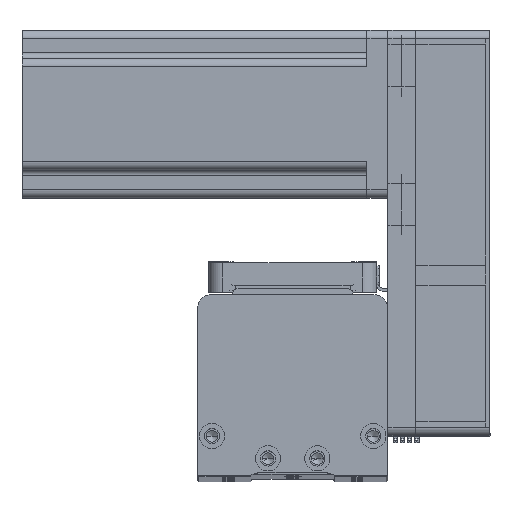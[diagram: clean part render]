
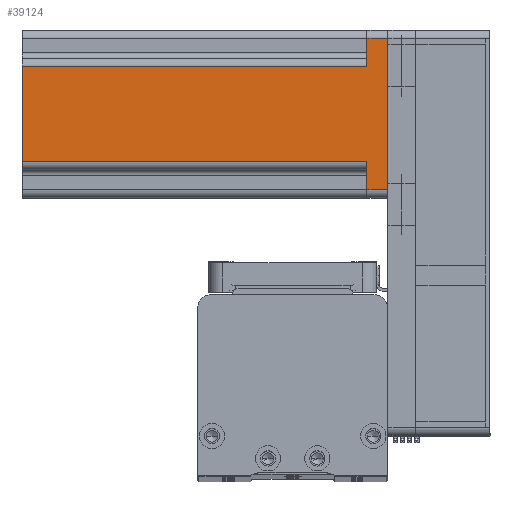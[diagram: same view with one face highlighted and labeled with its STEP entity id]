
A CAD part, top view. The second image highlights one B-rep face of the part: STEP entity #39124.
In plain terms, the highlighted planar face has unit normal (0, 0, 1) as drawn and (0, -1, 0) by its records, which use the part's own axes.
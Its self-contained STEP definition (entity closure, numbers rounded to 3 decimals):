
#817 = VECTOR ( 'NONE', #45818, 1000. ) ;
#1178 = CARTESIAN_POINT ( 'NONE',  ( -27., -30., 130.7 ) ) ;
#1821 = PLANE ( 'NONE',  #39786 ) ;
#2224 = ORIENTED_EDGE ( 'NONE', *, *, #9020, .T. ) ;
#3173 = CARTESIAN_POINT ( 'NONE',  ( 20., -30., 7.5 ) ) ;
#5502 = CARTESIAN_POINT ( 'NONE',  ( -17., -30., 7.5 ) ) ;
#5950 = VERTEX_POINT ( 'NONE', #10632 ) ;
#6006 = VERTEX_POINT ( 'NONE', #22350 ) ;
#6258 = EDGE_CURVE ( 'NONE', #38527, #5950, #39411, .T. ) ;
#6953 = DIRECTION ( 'NONE',  ( -1., 0., 0. ) ) ;
#7013 = VECTOR ( 'NONE', #33353, 1000. ) ;
#7710 = VERTEX_POINT ( 'NONE', #5502 ) ;
#7947 = EDGE_CURVE ( 'NONE', #5950, #6006, #10967, .T. ) ;
#8239 = VECTOR ( 'NONE', #8971, 1000. ) ;
#8971 = DIRECTION ( 'NONE',  ( 0., 0., 1. ) ) ;
#9020 = EDGE_CURVE ( 'NONE', #32761, #9303, #13770, .T. ) ;
#9303 = VERTEX_POINT ( 'NONE', #15302 ) ;
#9565 = DIRECTION ( 'NONE',  ( 0., 1., 0. ) ) ;
#9826 = DIRECTION ( 'NONE',  ( 0., 0., 1. ) ) ;
#10632 = CARTESIAN_POINT ( 'NONE',  ( 27., -30., 7.5 ) ) ;
#10967 = LINE ( 'NONE', #3173, #31049 ) ;
#12582 = VECTOR ( 'NONE', #23766, 1000. ) ;
#13298 = ORIENTED_EDGE ( 'NONE', *, *, #7947, .T. ) ;
#13770 = LINE ( 'NONE', #1178, #12582 ) ;
#15302 = CARTESIAN_POINT ( 'NONE',  ( -27., -30., 0. ) ) ;
#15621 = LINE ( 'NONE', #26321, #34398 ) ;
#15838 = ORIENTED_EDGE ( 'NONE', *, *, #6258, .T. ) ;
#17491 = LINE ( 'NONE', #43998, #36294 ) ;
#17910 = LINE ( 'NONE', #32407, #30300 ) ;
#19027 = DIRECTION ( 'NONE',  ( 1., 0., 0. ) ) ;
#19988 = EDGE_CURVE ( 'NONE', #32761, #7710, #40828, .T. ) ;
#20034 = CARTESIAN_POINT ( 'NONE',  ( 27., -30., 0. ) ) ;
#20078 = EDGE_LOOP ( 'NONE', ( #44228, #24782, #31805, #2224, #20236, #15838, #13298, #34136 ) ) ;
#20236 = ORIENTED_EDGE ( 'NONE', *, *, #28243, .T. ) ;
#22039 = EDGE_CURVE ( 'NONE', #27209, #40794, #27120, .T. ) ;
#22350 = CARTESIAN_POINT ( 'NONE',  ( 17., -30., 7.5 ) ) ;
#23766 = DIRECTION ( 'NONE',  ( 0., 0., -1. ) ) ;
#24110 = EDGE_CURVE ( 'NONE', #6006, #40794, #17910, .T. ) ;
#24782 = ORIENTED_EDGE ( 'NONE', *, *, #29237, .T. ) ;
#26321 = CARTESIAN_POINT ( 'NONE',  ( 30., -30., 0. ) ) ;
#27120 = LINE ( 'NONE', #48291, #7013 ) ;
#27209 = VERTEX_POINT ( 'NONE', #34341 ) ;
#28243 = EDGE_CURVE ( 'NONE', #9303, #38527, #15621, .T. ) ;
#29237 = EDGE_CURVE ( 'NONE', #27209, #7710, #17491, .T. ) ;
#30300 = VECTOR ( 'NONE', #9826, 1000. ) ;
#31049 = VECTOR ( 'NONE', #6953, 1000. ) ;
#31805 = ORIENTED_EDGE ( 'NONE', *, *, #19988, .F. ) ;
#32162 = CARTESIAN_POINT ( 'NONE',  ( 30., -30., 130.7 ) ) ;
#32407 = CARTESIAN_POINT ( 'NONE',  ( 17., -30., 130.7 ) ) ;
#32761 = VERTEX_POINT ( 'NONE', #39973 ) ;
#33353 = DIRECTION ( 'NONE',  ( 1., 0., 0. ) ) ;
#34136 = ORIENTED_EDGE ( 'NONE', *, *, #24110, .T. ) ;
#34341 = CARTESIAN_POINT ( 'NONE',  ( -17., -30., 130.7 ) ) ;
#34398 = VECTOR ( 'NONE', #19027, 1000. ) ;
#35893 = DIRECTION ( 'NONE',  ( -1., 0., 0. ) ) ;
#36294 = VECTOR ( 'NONE', #47828, 1000. ) ;
#36422 = FACE_OUTER_BOUND ( 'NONE', #20078, .T. ) ;
#38527 = VERTEX_POINT ( 'NONE', #20034 ) ;
#39124 = ADVANCED_FACE ( 'NONE', ( #36422 ), #1821, .F. ) ;
#39411 = LINE ( 'NONE', #42644, #8239 ) ;
#39786 = AXIS2_PLACEMENT_3D ( 'NONE', #32162, #9565, #35893 ) ;
#39973 = CARTESIAN_POINT ( 'NONE',  ( -27., -30., 7.5 ) ) ;
#40794 = VERTEX_POINT ( 'NONE', #42797 ) ;
#40828 = LINE ( 'NONE', #42039, #817 ) ;
#42039 = CARTESIAN_POINT ( 'NONE',  ( -20., -30., 7.5 ) ) ;
#42644 = CARTESIAN_POINT ( 'NONE',  ( 27., -30., 130.7 ) ) ;
#42797 = CARTESIAN_POINT ( 'NONE',  ( 17., -30., 130.7 ) ) ;
#43998 = CARTESIAN_POINT ( 'NONE',  ( -17., -30., 130.7 ) ) ;
#44228 = ORIENTED_EDGE ( 'NONE', *, *, #22039, .F. ) ;
#45818 = DIRECTION ( 'NONE',  ( 1., 0., 0. ) ) ;
#47828 = DIRECTION ( 'NONE',  ( 0., 0., -1. ) ) ;
#48291 = CARTESIAN_POINT ( 'NONE',  ( 30., -30., 130.7 ) ) ;
